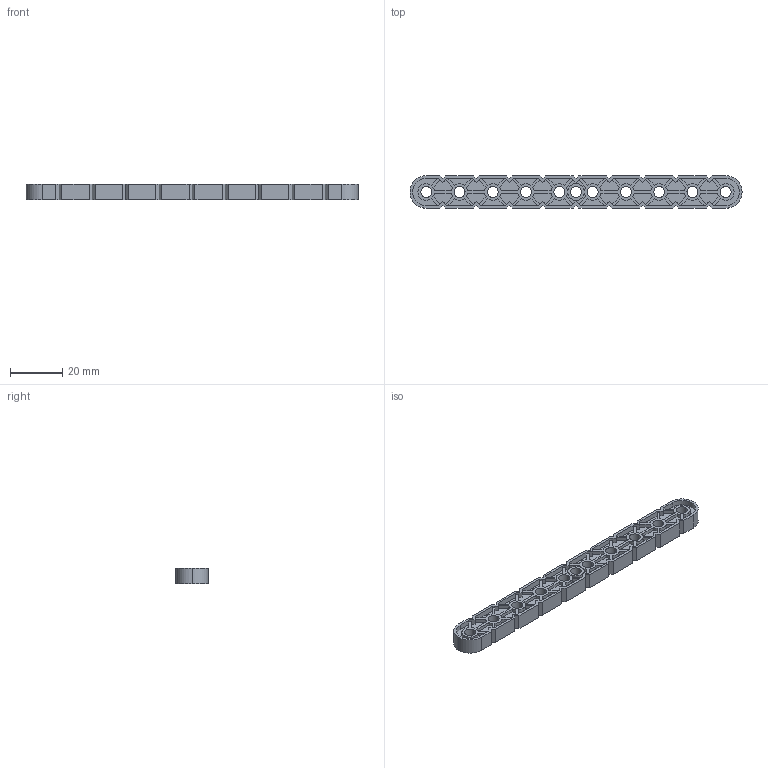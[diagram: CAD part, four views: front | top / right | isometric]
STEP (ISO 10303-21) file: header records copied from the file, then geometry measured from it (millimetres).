
FILE_DESCRIPTION (( 'STEP AP214' ), '1' );
FILE_NAME ('228-2500-009.STEP', '2021-02-18T18:47:07', ( '' ), ( '' ), 'SwSTEP 2.0', 'SolidWorks 2019', '' );
FILE_SCHEMA (( 'AUTOMOTIVE_DESIGN' ));
Length unit declared in the file: millimetre
Products named in the file (1): 228-2500-009
Bounding box: 126.7 x 12.4 x 6.1 mm (x, y, z)
Volume: 4885.9 mm3; surface area: 7582.2 mm2
Topology: 1 solids, 1 shells, 573 faces, 1707 edges, 1138 vertices
Faces by surface type: plane 428, cylinder 141, cone 4
Entity records: 19221 total; most frequent: CARTESIAN_POINT 3467, ORIENTED_EDGE 3414, DIRECTION 3137, EDGE_CURVE 1707, LINE 1409, VECTOR 1409, VERTEX_POINT 1138, AXIS2_PLACEMENT_3D 864
